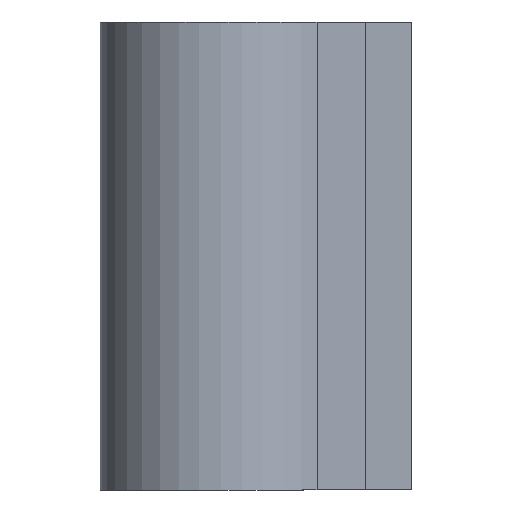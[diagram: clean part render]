
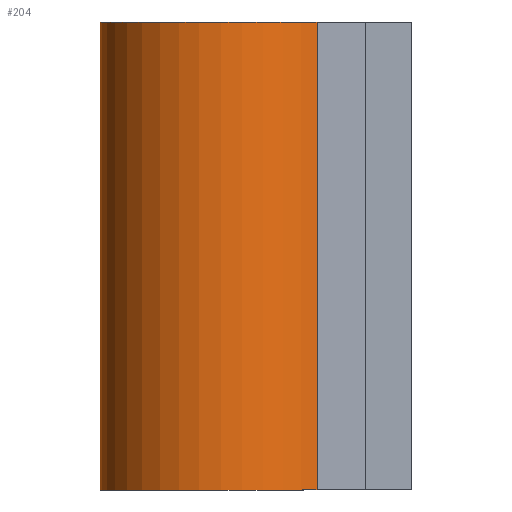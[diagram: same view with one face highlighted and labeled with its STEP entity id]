
A CAD part, front view. The second image highlights one B-rep face of the part: STEP entity #204.
In plain terms, the highlighted cylindrical face has radius 8 mm (diameter 16 mm), a partial arc.
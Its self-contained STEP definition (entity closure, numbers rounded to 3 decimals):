
#13 = LINE ( 'NONE', #127, #146 ) ;
#26 = DIRECTION ( 'NONE',  ( 0., 0., -1. ) ) ;
#48 = CIRCLE ( 'NONE', #95, 8. ) ;
#54 = CARTESIAN_POINT ( 'NONE',  ( 5.914, -5.388, -30. ) ) ;
#86 = LINE ( 'NONE', #54, #343 ) ;
#92 = ORIENTED_EDGE ( 'NONE', *, *, #264, .T. ) ;
#93 = DIRECTION ( 'NONE',  ( 0., -1., 0. ) ) ;
#95 = AXIS2_PLACEMENT_3D ( 'NONE', #281, #205, #329 ) ;
#119 = VERTEX_POINT ( 'NONE', #291 ) ;
#127 = CARTESIAN_POINT ( 'NONE',  ( 0., 8., -30. ) ) ;
#129 = ORIENTED_EDGE ( 'NONE', *, *, #206, .T. ) ;
#133 = DIRECTION ( 'NONE',  ( 0., 0., 1. ) ) ;
#146 = VECTOR ( 'NONE', #26, 1000. ) ;
#200 = VERTEX_POINT ( 'NONE', #387 ) ;
#204 = ADVANCED_FACE ( 'NONE', ( #503 ), #269, .T. ) ;
#205 = DIRECTION ( 'NONE',  ( 0., 0., 1. ) ) ;
#206 = EDGE_CURVE ( 'NONE', #520, #279, #13, .T. ) ;
#226 = CARTESIAN_POINT ( 'NONE',  ( 0., 8., 0. ) ) ;
#230 = AXIS2_PLACEMENT_3D ( 'NONE', #348, #465, #93 ) ;
#246 = CARTESIAN_POINT ( 'NONE',  ( 0., 8., -30. ) ) ;
#264 = EDGE_CURVE ( 'NONE', #279, #119, #48, .T. ) ;
#269 = CYLINDRICAL_SURFACE ( 'NONE', #230, 8. ) ;
#279 = VERTEX_POINT ( 'NONE', #246 ) ;
#281 = CARTESIAN_POINT ( 'NONE',  ( 0., 0., -30. ) ) ;
#291 = CARTESIAN_POINT ( 'NONE',  ( 5.914, -5.388, -30. ) ) ;
#301 = DIRECTION ( 'NONE',  ( 0., 0., -1. ) ) ;
#303 = CARTESIAN_POINT ( 'NONE',  ( 0., 0., 0. ) ) ;
#318 = AXIS2_PLACEMENT_3D ( 'NONE', #303, #301, #486 ) ;
#329 = DIRECTION ( 'NONE',  ( 0., -1., 0. ) ) ;
#343 = VECTOR ( 'NONE', #133, 1000. ) ;
#348 = CARTESIAN_POINT ( 'NONE',  ( 0., 0., -30. ) ) ;
#364 = ORIENTED_EDGE ( 'NONE', *, *, #421, .T. ) ;
#387 = CARTESIAN_POINT ( 'NONE',  ( 5.914, -5.388, 0. ) ) ;
#421 = EDGE_CURVE ( 'NONE', #200, #520, #513, .T. ) ;
#442 = ORIENTED_EDGE ( 'NONE', *, *, #494, .T. ) ;
#465 = DIRECTION ( 'NONE',  ( 0., 0., 1. ) ) ;
#486 = DIRECTION ( 'NONE',  ( 0., -1., 0. ) ) ;
#494 = EDGE_CURVE ( 'NONE', #119, #200, #86, .T. ) ;
#503 = FACE_OUTER_BOUND ( 'NONE', #512, .T. ) ;
#512 = EDGE_LOOP ( 'NONE', ( #92, #442, #364, #129 ) ) ;
#513 = CIRCLE ( 'NONE', #318, 8. ) ;
#520 = VERTEX_POINT ( 'NONE', #226 ) ;
